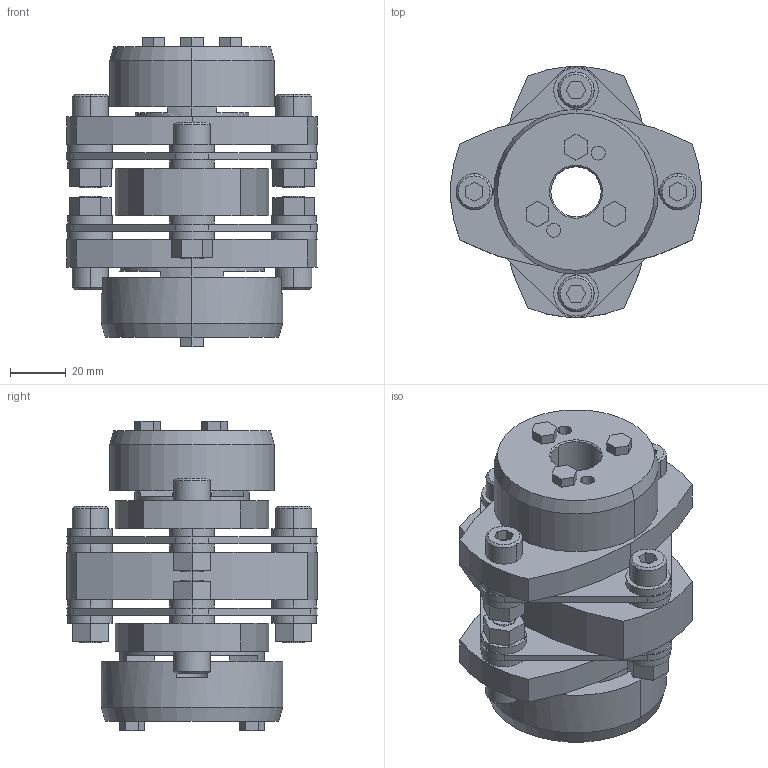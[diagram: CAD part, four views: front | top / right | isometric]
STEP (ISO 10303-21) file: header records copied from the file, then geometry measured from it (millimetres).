
FILE_DESCRIPTION((''),'2;1');
FILE_NAME('LCD-90T7-18×30.stp','2015-11-01T19:20:12',(''),(''),'AutoCAD STEP 2000i','AutoCAD 2000i',', , ');
FILE_SCHEMA(('CONFIG_CONTROL_DESIGN'));
Length unit declared in the file: millimetre
Products named in the file (7): LCD-90T7-19×30; 忣兜1; LC90T7-T030; LC90T7-T025; LC90T7-T019-1; LC90T7-T019; LCD90-ITA
Assembly tree (6 placements, depth 2):
  LCD-90T7-19×30
    忣兜1
    LC90T7-T030
    LC90T7-T025
    LC90T7-T019-1
    LC90T7-T019
    LCD90-ITA
Bounding box: 90 x 89.94 x 111 mm (x, y, z)
Volume: 279370 mm3; surface area: 74728.7 mm2
Topology: 1 solids, 1 shells, 317 faces, 774 edges, 508 vertices
Faces by surface type: plane 171, cylinder 122, cone 24
Entity records: 9595 total; most frequent: DIRECTION 1710, CARTESIAN_POINT 1606, ORIENTED_EDGE 1548, EDGE_CURVE 774, AXIS2_PLACEMENT_3D 612, VERTEX_POINT 508, VECTOR 486, LINE 486
